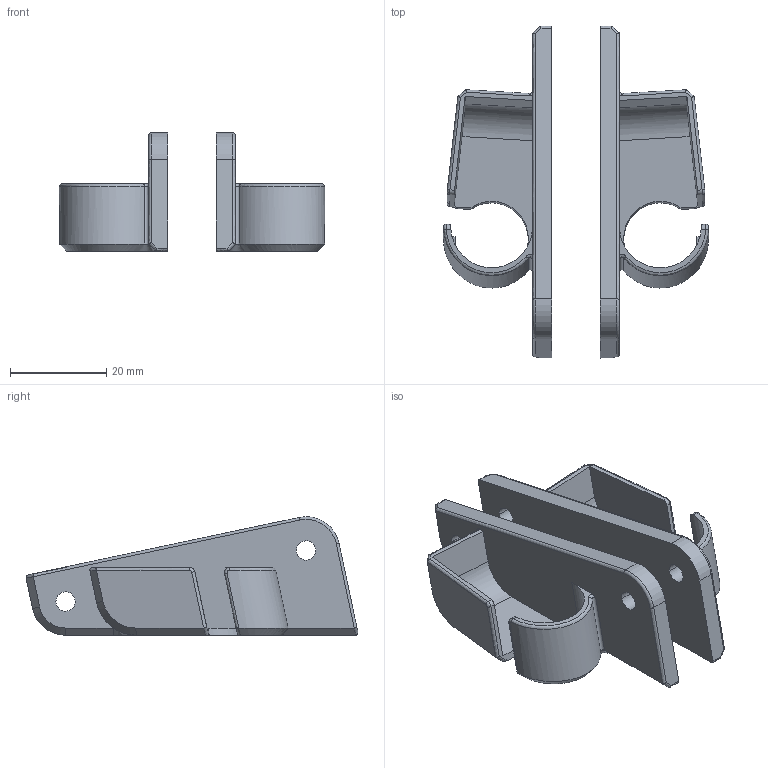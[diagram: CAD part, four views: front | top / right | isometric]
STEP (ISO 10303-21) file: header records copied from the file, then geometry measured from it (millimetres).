
FILE_DESCRIPTION (( 'STEP AP214' ), '1' );
FILE_NAME ('7597_201_P1_38.STEP', '2019-11-01T14:13:35', ( '' ), ( '' ), 'SwSTEP 2.0', 'SolidWorks 2018', '' );
FILE_SCHEMA (( 'AUTOMOTIVE_DESIGN' ));
Length unit declared in the file: millimetre
Products named in the file (1): 7597_201_P1_38
Bounding box: 55 x 68.85 x 24.59 mm (x, y, z)
Volume: 13113.9 mm3; surface area: 10972.3 mm2
Topology: 2 solids, 2 shells, 118 faces, 298 edges, 182 vertices
Faces by surface type: bspline 44, plane 38, cylinder 32, torus 2, cone 2
Entity records: 5883 total; most frequent: CARTESIAN_POINT 3517, ORIENTED_EDGE 592, DIRECTION 320, EDGE_CURVE 296, VERTEX_POINT 182, EDGE_LOOP 126, B_SPLINE_CURVE_WITH_KNOTS 124, ADVANCED_FACE 118
